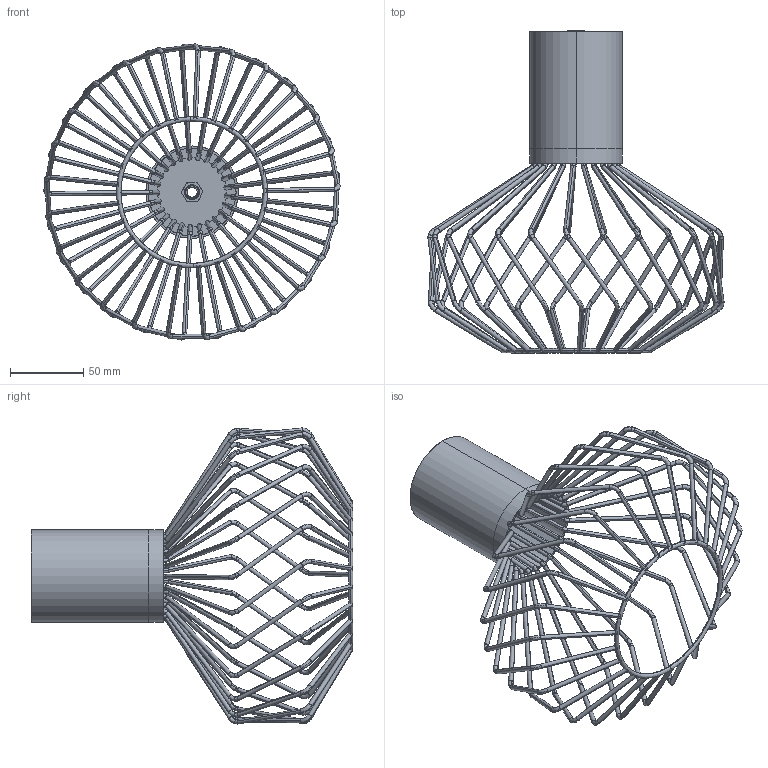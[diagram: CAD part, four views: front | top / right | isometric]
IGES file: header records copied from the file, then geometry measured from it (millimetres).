
Start section: SolidWorks IGES file using analytic representation for surfaces
Global section: file name: F:\GABRYSIA\MODELE 3D\_CAMELEON\KLOSZE I OPRAWY WWW\PICO_A_8591_WWW\PICO_A_8591.IGS; native system: SolidWorks 2017; preprocessor: SolidWorks 2017; author: Togambi; date: 200506.112221; units: millimetre
Bounding box: 202.11 x 219.58 x 201.91 mm (x, y, z)
Surface area: 116971.7 mm2 (no closed solid volume)
Topology: 0 solids, 0 shells, 640 faces, 6720 edges, 6720 vertices
Faces by surface type: bspline 323, revolution 317
